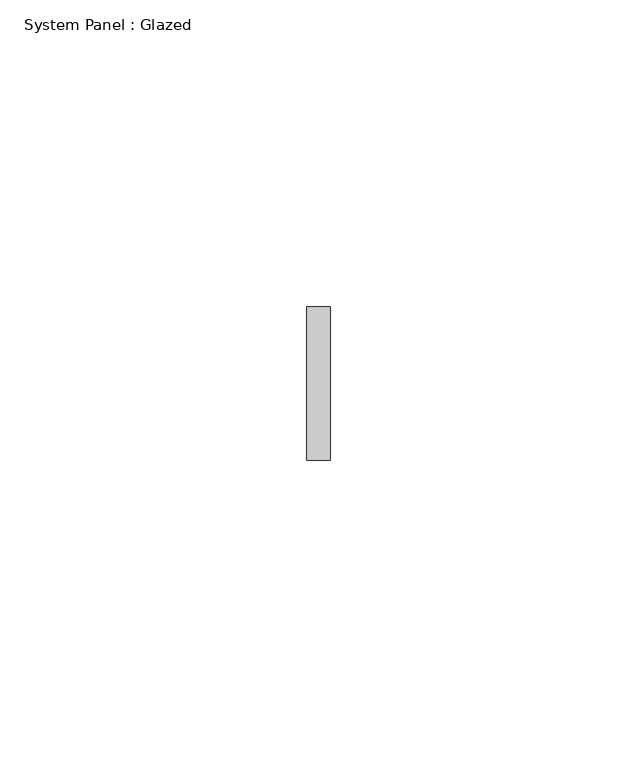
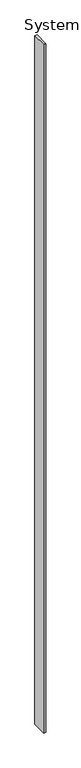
"""IFC4 building model written with IfcOpenShell, lengths in millimetres: plate geometry, System Panel : Glazed."""

from ifc_helpers import new_model, si_unit, origin, origin_with_axes, place, context, project, spatial, polyline, outline, extrude, source, transform, mapped, element, save


def system_panel_glazed_97369be3(model_context):
    return source(origin(), model_context, "Body", "SweptSolid", [
        extrude(outline(polyline([(1.9081169, -12.5), (-1.9081169, -12.5), (-1.9081169, 12.5), (1.9081169, 12.5), (1.9081169, -12.5)])), origin_with_axes(), (0.0, 0.0, 1.0), 1210.0),
    ])


if __name__ == "__main__":
    model = new_model("IFC4")
    model_context = context("Model", 3, world=origin())
    ifc_project = project(units=[si_unit("LENGTHUNIT", "METRE", prefix="MILLI")], contexts=[model_context])
    site = spatial("IfcSite", under=ifc_project)
    building = spatial("IfcBuilding", under=site)
    placement = place(None, origin())
    system_panel_glazed_shape = system_panel_glazed_97369be3(model_context)
    element("IfcPlate", 1, ObjectType="System Panel : Glazed", at=placement, inside=building, context=model_context, shape_type="MappedRepresentation", body=[
        mapped(system_panel_glazed_shape, transform((0.0, 0.0, 0.0), x_axis=(1.0, 0.0, 0.0), y_axis=(0.0, 1.0, 0.0), z_axis=(0.0, 0.0, 1.0))),
    ])
    save(model, "model.ifc")
